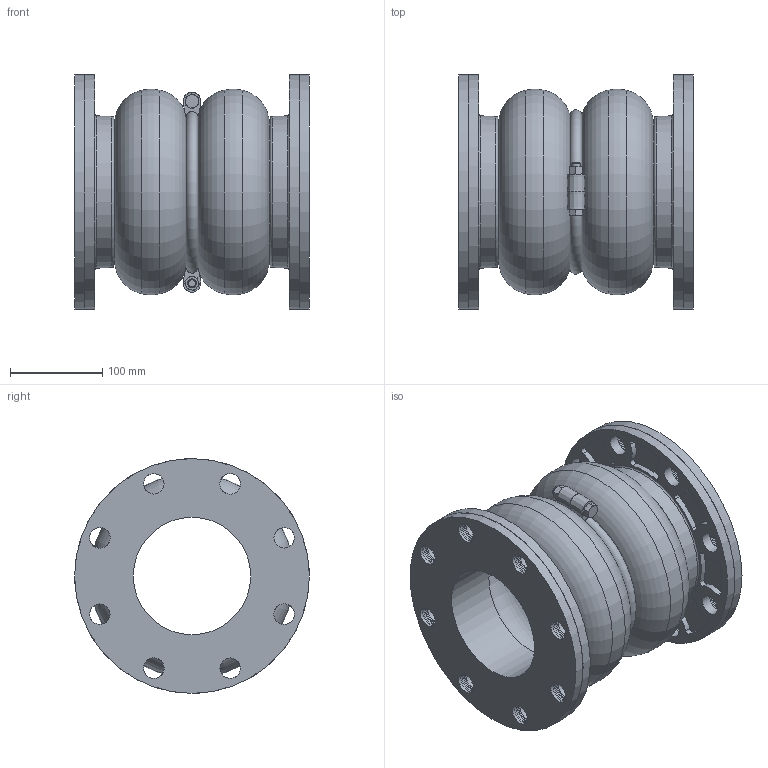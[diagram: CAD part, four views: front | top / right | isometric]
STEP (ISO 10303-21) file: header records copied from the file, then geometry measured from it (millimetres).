
FILE_DESCRIPTION((''),'2;1');
FILE_NAME('C:\2011_Work\Designs\Mercer\Stock Joints\450 Style\452\STEP\Style452 5x10.stp','2013-07-26T17:09:23',('mquog'),(''),'Autodesk Inventor 2011','Autodesk Inventor 2011','');
FILE_SCHEMA(('AUTOMOTIVE_DESIGN { 1 0 10303 214 1 1 1 1 }'));
Length unit declared in the file: inch
Products named in the file (6): Style452 5x10; 5DI450BUR150; 5_MBR; Hex Bolt - Inch 3/8-16 UNC - 2; Hex Nut - Inch 3/8 - 16; 452 5x10
Assembly tree (9 placements, depth 2):
  Style452 5x10
    5DI450BUR150  x2
    5_MBR  x2
    Hex Bolt - Inch 3/8-16 UNC - 2  x2
    Hex Nut - Inch 3/8 - 16  x2
    452 5x10
Bounding box: 254 x 254 x 254 mm (x, y, z)
Volume: 4248122.4 mm3; surface area: 3355126.9 mm2
Topology: 41 solids, 41 shells, 616 faces, 1410 edges, 888 vertices
Faces by surface type: cylinder 310, plane 138, torus 102, cone 50, bspline 16
Full cylindrical faces by diameter (mm): 7.798 x2, 9.525 x2, 9.855 x2, 11.113 x4, 14.275 x2, 22.225 x112, 127 x3, 133.35 x6, 139.7 x12, 143.764 x6, 147.828 x8, 151.003 x3, 158.75 x6, 247.65 x12, 254 x2
Entity records: 13999 total; most frequent: CARTESIAN_POINT 3586, DIRECTION 2226, ORIENTED_EDGE 1506, AXIS2_PLACEMENT_3D 1067, EDGE_LOOP 1018, EDGE_CURVE 753, VERTEX_POINT 641, CIRCLE 601
